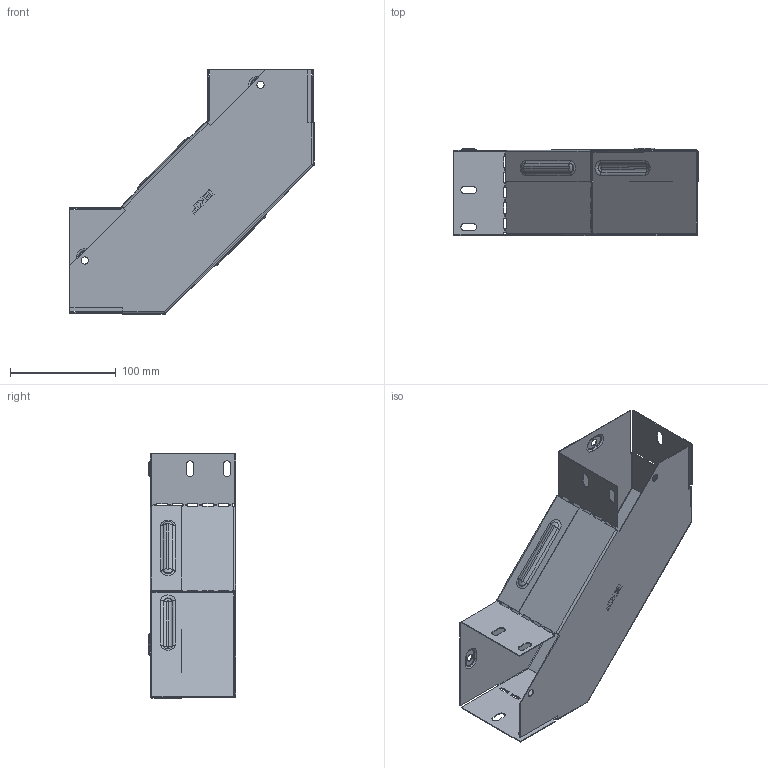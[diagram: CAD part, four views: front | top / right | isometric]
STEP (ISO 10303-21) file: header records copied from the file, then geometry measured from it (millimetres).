
FILE_DESCRIPTION (( 'STEP AP214' ), '1' );
FILE_NAME ('g9080100_捘.STEP', '2019-06-10T09:53:15', ( '砐錪賧瘔蠈錪 Windows' ), ( '' ), 'SwSTEP 2.0', 'SolidWorks 2018', '' );
FILE_SCHEMA (( 'AUTOMOTIVE_DESIGN' ));
Length unit declared in the file: millimetre
Products named in the file (1): g9080100_捘
Bounding box: 230.8 x 82.3 x 230.8 mm (x, y, z)
Volume: 88960.3 mm3; surface area: 225378.3 mm2
Topology: 2 solids, 2 shells, 528 faces, 1480 edges, 960 vertices
Faces by surface type: plane 324, cylinder 130, torus 48, bspline 26
Entity records: 18281 total; most frequent: CARTESIAN_POINT 4445, ORIENTED_EDGE 2960, DIRECTION 2738, EDGE_CURVE 1480, LINE 1100, VECTOR 1100, VERTEX_POINT 960, AXIS2_PLACEMENT_3D 819
